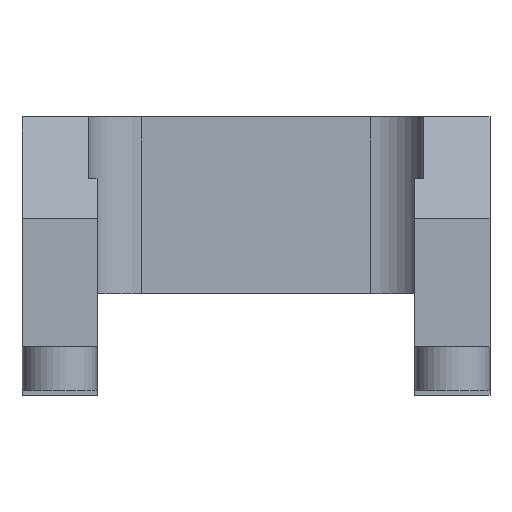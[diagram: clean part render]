
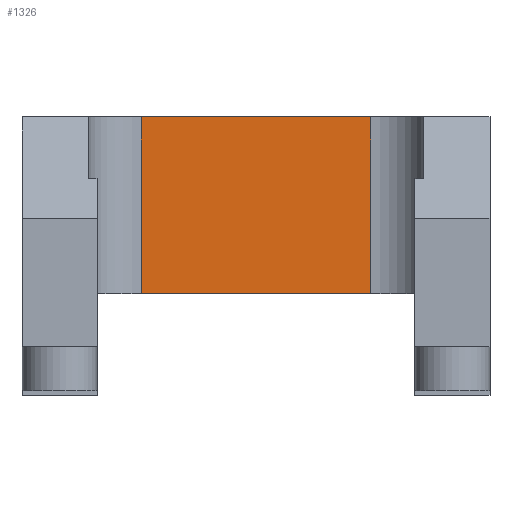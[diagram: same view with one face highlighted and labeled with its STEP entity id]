
A CAD part, front view. The second image highlights one B-rep face of the part: STEP entity #1326.
In plain terms, the highlighted planar face has unit normal (0, -1, 0).
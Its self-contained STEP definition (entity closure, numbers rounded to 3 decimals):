
#45=PLANE('',#1453);
#112=FACE_OUTER_BOUND('',#186,.T.);
#186=EDGE_LOOP('',(#1063,#1064,#1065,#1066));
#306=LINE('',#2083,#458);
#317=LINE('',#2117,#469);
#319=LINE('',#2123,#471);
#320=LINE('',#2124,#472);
#458=VECTOR('',#1686,10.);
#469=VECTOR('',#1719,10.);
#471=VECTOR('',#1725,10.);
#472=VECTOR('',#1726,10.);
#655=VERTEX_POINT('',#2080);
#656=VERTEX_POINT('',#2082);
#668=VERTEX_POINT('',#2116);
#670=VERTEX_POINT('',#2122);
#804=EDGE_CURVE('',#655,#656,#306,.T.);
#821=EDGE_CURVE('',#656,#668,#317,.T.);
#824=EDGE_CURVE('',#670,#655,#319,.T.);
#825=EDGE_CURVE('',#668,#670,#320,.T.);
#1063=ORIENTED_EDGE('',*,*,#821,.F.);
#1064=ORIENTED_EDGE('',*,*,#804,.F.);
#1065=ORIENTED_EDGE('',*,*,#824,.F.);
#1066=ORIENTED_EDGE('',*,*,#825,.F.);
#1326=ADVANCED_FACE('',(#112),#45,.F.);
#1453=AXIS2_PLACEMENT_3D('',#2121,#1723,#1724);
#1686=DIRECTION('',(1.,0.,0.));
#1719=DIRECTION('',(0.,0.,-1.));
#1723=DIRECTION('center_axis',(0.,1.,0.));
#1724=DIRECTION('ref_axis',(-1.,0.,0.));
#1725=DIRECTION('',(0.,0.,1.));
#1726=DIRECTION('',(-1.,0.,0.));
#2080=CARTESIAN_POINT('',(-13.,60.,20.));
#2082=CARTESIAN_POINT('',(13.,60.,20.));
#2083=CARTESIAN_POINT('',(9.5,60.,20.));
#2116=CARTESIAN_POINT('',(13.,60.,0.));
#2117=CARTESIAN_POINT('',(13.,60.,0.));
#2121=CARTESIAN_POINT('Origin',(19.,60.,0.));
#2122=CARTESIAN_POINT('',(-13.,60.,0.));
#2123=CARTESIAN_POINT('',(-13.,60.,0.));
#2124=CARTESIAN_POINT('',(9.5,60.,0.));
